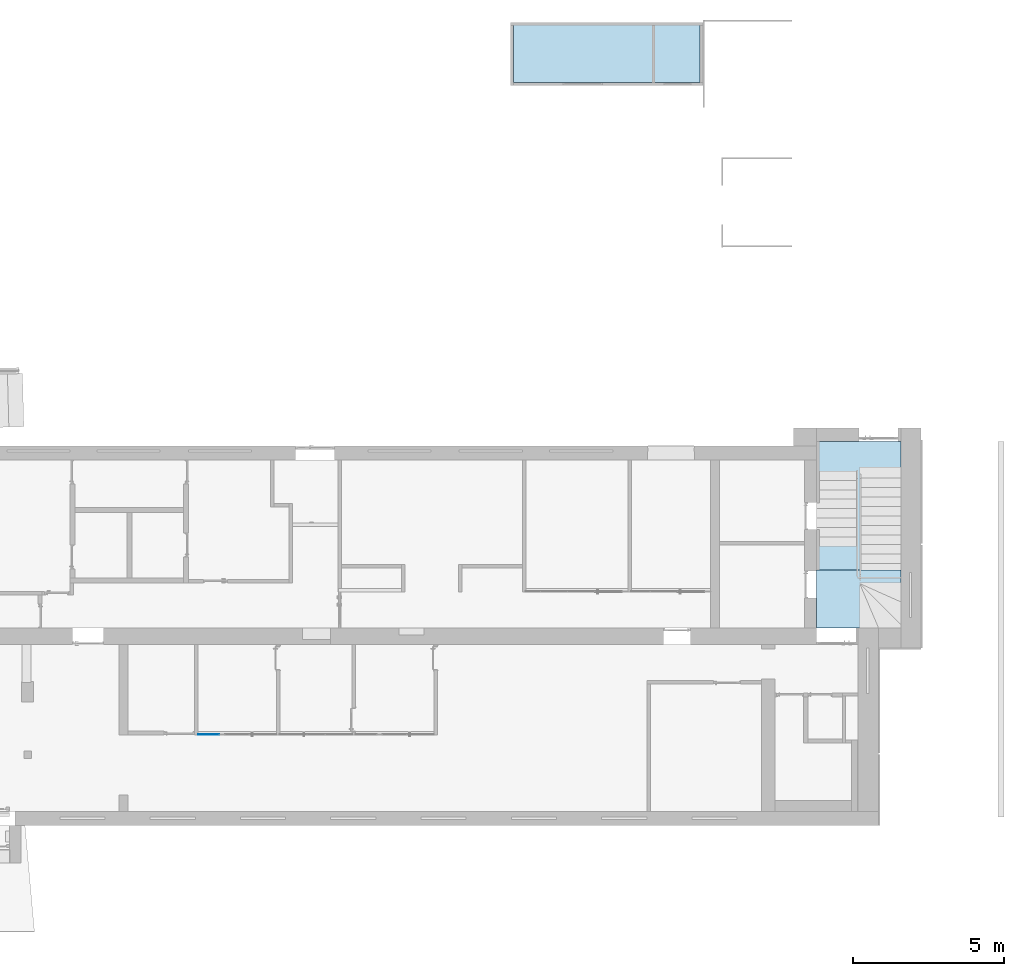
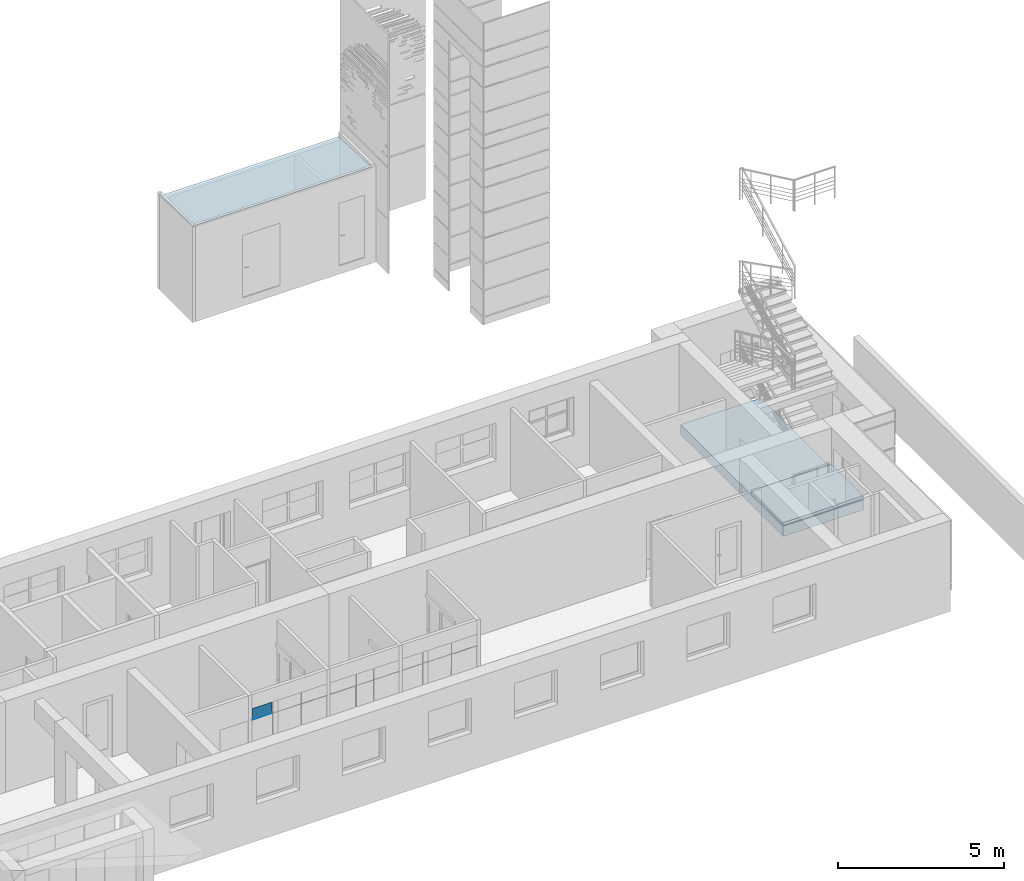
# One storey, part 13 of 49: 3 slabs, 2 plates, 2 elements without a shape of their own.
"""IFC2X3 building model written with IfcOpenShell, lengths in millimetres."""

from ifc_helpers import new_model, entity, si_unit, converted_unit, derived_unit, direction, frame, frame_2d, origin, origin_2d_with_axis, place, context, subcontext, project, spatial, rectangle, extrude, source, transform, mapped, material, layer, layer_set, layer_usage, type_object, type_shapes, element, aggregate, save


model = new_model("IFC2X3")

# Units and contexts
model_context = context("Model", 3, precision=0.01, world=origin(), true_north=direction((6.12303176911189e-17, 1.0)))
body_context = subcontext(model_context, "Body", "Model", "MODEL_VIEW")
ifc_project = project(units=[si_unit("LENGTHUNIT", "METRE", prefix="MILLI"), si_unit("AREAUNIT", "SQUARE_METRE"), si_unit("VOLUMEUNIT", "CUBIC_METRE"), converted_unit("PLANEANGLEUNIT", "DEGREE", entity("IfcRatioMeasure", 0.0174532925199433), si_unit("PLANEANGLEUNIT", "RADIAN"), dimensions=[0, 0, 0, 0, 0, 0, 0]), si_unit("MASSUNIT", "GRAM", prefix="KILO"), derived_unit("MASSDENSITYUNIT", [(si_unit("MASSUNIT", "GRAM", prefix="KILO"), 1), (si_unit("LENGTHUNIT", "METRE"), -3)]), si_unit("TIMEUNIT", "SECOND"), si_unit("FREQUENCYUNIT", "HERTZ"), si_unit("THERMODYNAMICTEMPERATUREUNIT", "DEGREE_CELSIUS"), derived_unit("THERMALTRANSMITTANCEUNIT", [(si_unit("MASSUNIT", "GRAM", prefix="KILO"), 1), (si_unit("THERMODYNAMICTEMPERATUREUNIT", "KELVIN"), -1), (si_unit("TIMEUNIT", "SECOND"), -3)]), derived_unit("VOLUMETRICFLOWRATEUNIT", [(si_unit("LENGTHUNIT", "METRE"), 3), (si_unit("TIMEUNIT", "SECOND"), -1)]), si_unit("ELECTRICCURRENTUNIT", "AMPERE"), si_unit("ELECTRICVOLTAGEUNIT", "VOLT"), si_unit("POWERUNIT", "WATT"), si_unit("FORCEUNIT", "NEWTON", prefix="KILO"), si_unit("ILLUMINANCEUNIT", "LUX"), si_unit("LUMINOUSFLUXUNIT", "LUMEN"), si_unit("LUMINOUSINTENSITYUNIT", "CANDELA"), derived_unit("USERDEFINED", [(si_unit("MASSUNIT", "GRAM", prefix="KILO"), -1), (si_unit("LENGTHUNIT", "METRE"), -2), (si_unit("TIMEUNIT", "SECOND"), 3), (si_unit("LUMINOUSFLUXUNIT", "LUMEN"), 1)]), derived_unit("LINEARVELOCITYUNIT", [(si_unit("LENGTHUNIT", "METRE"), 1), (si_unit("TIMEUNIT", "SECOND"), -1)]), si_unit("PRESSUREUNIT", "PASCAL"), derived_unit("USERDEFINED", [(si_unit("LENGTHUNIT", "METRE"), -2), (si_unit("MASSUNIT", "GRAM", prefix="KILO"), 1), (si_unit("TIMEUNIT", "SECOND"), -2)])], contexts=[model_context])

# Site, building, storey
site_placement = place(None, frame((-151.875543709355, 2715.0, 0.0)))
site = spatial("IfcSite", under=ifc_project, at=site_placement, Name="Surface", CompositionType="ELEMENT")
building_placement = place(site_placement, origin())
building = spatial("IfcBuilding", under=site, at=building_placement, CompositionType="ELEMENT")
storey_placement = place(building_placement, origin())
storey = spatial("IfcBuildingStorey", under=building, at=storey_placement, Name="1 korrus", CompositionType="ELEMENT", Elevation=3.0969999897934e-10)

# Curtain wall, plates
curtain_wall_type = type_object("IfcCurtainWallType", Name="Curtain Wall:Klaassein KLS-01", PredefinedType="NOTDEFINED")
curtain_wall_placement = place(storey_placement, origin())
curtain_wall = element("IfcCurtainWall", 1, at=curtain_wall_placement, inside=storey, type_object=curtain_wall_type, Name="Curtain Wall:Klaassein KLS-01", ObjectType="Curtain Wall:Klaassein KLS-01")
ifc_material_1 = material(Name="<Unnamed>")
ifc_layer_1 = layer(ifc_material_1, 20.0)
ifc_layer_set_1 = layer_set([ifc_layer_1], Name="Curtain Wall:Klaassein KLS-01")
ifc_layer_usage_1 = layer_usage(ifc_layer_set_1, "AXIS3", "POSITIVE", 0.0)
plate_type_1 = type_object("IfcPlateType", Name="Glazed", PredefinedType="CURTAIN_PANEL", material=ifc_layer_set_1)
shared_shape_1 = source(origin(), body_context, "Body", "SweptSolid", [
    extrude(rectangle(XDim=20.0, YDim=701.999999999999, at=origin_2d_with_axis()), frame((0.0, 0.0, 0.0), z_axis=(0.0, 0.0, 1.0), x_axis=(0.0, 1.0, 0.0)), (0.0, 0.0, 1.0), 9.99999999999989),
])
type_shapes(plate_type_1, [shared_shape_1])
plate_1_placement = place(curtain_wall_placement, frame((12173.2710850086, 3017.50000000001, 2090.0)))
plate_1 = element("IfcPlate", 2, at=plate_1_placement, type_object=plate_type_1, material=ifc_layer_usage_1, Name="System Panel:Glazed", ObjectType="Glazed", context=body_context, shape_type="MappedRepresentation", body=[
    mapped(shared_shape_1, transform((0.0, 0.0, 0.0), scale=1.0)),
])
ifc_layer_usage_2 = layer_usage(ifc_layer_set_1, "AXIS3", "POSITIVE", 0.0)
plate_type_2 = type_object("IfcPlateType", Name="Glazed", PredefinedType="CURTAIN_PANEL", material=ifc_layer_set_1)
shared_shape_2 = source(origin(), body_context, "Body", "SweptSolid", [
    extrude(rectangle(XDim=20.0, YDim=691.999999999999, at=origin_2d_with_axis()), frame((0.0, 0.0, 0.0), z_axis=(0.0, 0.0, 1.0), x_axis=(0.0, 1.0, 0.0)), (0.0, 0.0, 1.0), 400.000000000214),
])
type_shapes(plate_type_2, [shared_shape_2])
plate_2_placement = place(curtain_wall_placement, frame((12168.2710850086, 3017.50000000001, 2100.0)))
plate_2 = element("IfcPlate", 3, at=plate_2_placement, type_object=plate_type_2, material=ifc_layer_usage_2, Name="System Panel:Glazed", ObjectType="Glazed", context=body_context, shape_type="MappedRepresentation", body=[
    mapped(shared_shape_2, transform((0.0, 0.0, 0.0), scale=1.0)),
])
aggregate(curtain_wall, [plate_1, plate_2])

# Slabs
ifc_material_2 = material(Name="Viimistlus_kelder")
ifc_layer_2 = layer(ifc_material_2, 20.0)
ifc_material_3 = material(Name="Betoon")
ifc_layer_3 = layer(ifc_material_3, 100.0)
ifc_material_4 = material(Name="__Soojustus EPS")
ifc_layer_4 = layer(ifc_material_4, 150.0)
ifc_material_5 = material(Name="Aluspinnas")
ifc_layer_5 = layer(ifc_material_5, 100.0)
ifc_layer_set_2 = layer_set([ifc_layer_2, ifc_layer_3, ifc_layer_4, ifc_layer_5], Name="Floor:P-1_Esimese korruse põrand")
ifc_layer_usage_3 = layer_usage(ifc_layer_set_2, "AXIS3", "POSITIVE", 0.0)
slab_1_placement = place(storey_placement, origin())
element("IfcSlab", 4, at=slab_1_placement, inside=storey, material=ifc_layer_usage_3, Name="Floor:P-1_Esimese korruse põrand", ObjectType="Floor:P-1_Esimese korruse põrand", PredefinedType="FLOOR", context=body_context, shape_type="SweptSolid", body=[
    extrude(rectangle(XDim=6190.00000000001, YDim=2799.00000000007, at=frame_2d((-4.54747350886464e-13, 4.32009983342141e-12), x_axis=(1.0, 0.0))), frame((33772.1162682, 9655.0, -135.0), z_axis=(0.0, 0.0, -1.0), x_axis=(0.0, 1.0, 0.0)), (0.0, 0.0, 1.0), 370.0),
])
ifc_layer_6 = layer(ifc_material_3, 100.0)
ifc_layer_set_3 = layer_set([ifc_layer_6], Name="Floor:Betoontasand 2")
ifc_layer_usage_4 = layer_usage(ifc_layer_set_3, "AXIS3", "POSITIVE", 0.0)
slab_2_placement = place(storey_placement, origin())
element("IfcSlab", 5, at=slab_2_placement, inside=storey, material=ifc_layer_usage_4, Name="Floor:Betoontasand 2", ObjectType="Floor:Betoontasand 2", PredefinedType="FLOOR", context=body_context, shape_type="SweptSolid", body=[
    extrude(rectangle(XDim=1936.94442749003, YDim=2799.00000000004, at=frame_2d((-1.08570930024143e-11, 2.1600499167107e-12), x_axis=(1.0, 0.0))), frame((33772.1162682, 7528.472213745, 0.0), z_axis=(0.0, 0.0, -1.0), x_axis=(0.0, 1.0, 0.0)), (0.0, 0.0, 1.0), 100.0),
])

# Roof, slab
roof_placement = place(storey_placement, frame((22301.6162681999, 24685.0376316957, 3300.0)))
roof = element("IfcRoof", 6, at=roof_placement, inside=storey, Name="Basic Roof:Prügimaja katus", ObjectType="Basic Roof:Prügimaja katus", ShapeType="NOTDEFINED")
ifc_material_6 = material(Name="SW katusepaneel")
ifc_layer_7 = layer(ifc_material_6, 75.0)
ifc_layer_set_4 = layer_set([ifc_layer_7], Name="Basic Roof:Prügimaja katus")
slab_3_placement = place(roof_placement, origin())
slab_3 = element("IfcSlab", 7, at=slab_3_placement, material=ifc_layer_set_4, Name="Basic Roof:Prügimaja katus", ObjectType="Basic Roof:Prügimaja katus", PredefinedType="ROOF", context=body_context, shape_type="SweptSolid", body=[
    extrude(rectangle(XDim=6199.99999999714, YDim=2002.70413857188, at=frame_2d((0.0, -2.1600499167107e-12), x_axis=(1.0, 0.0))), frame((3100.0, 999.979751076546, 52.4067180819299), z_axis=(0.0, 0.0523359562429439, 0.998629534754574), x_axis=(1.0, 0.0, 0.0)), (0.0, -0.0523359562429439, 0.998629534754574), 75.102925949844),
])
aggregate(roof, [slab_3])

save(model, "model.ifc")
